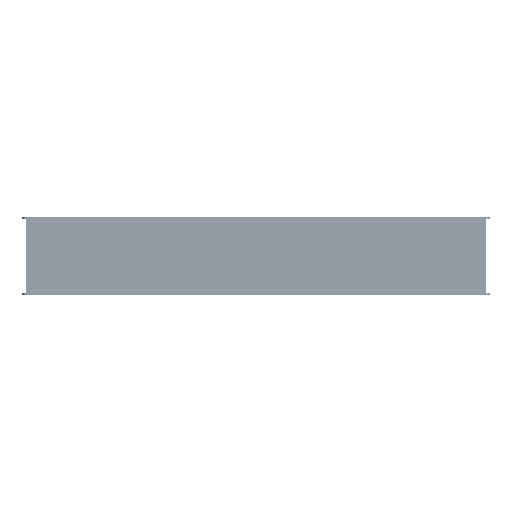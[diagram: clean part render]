
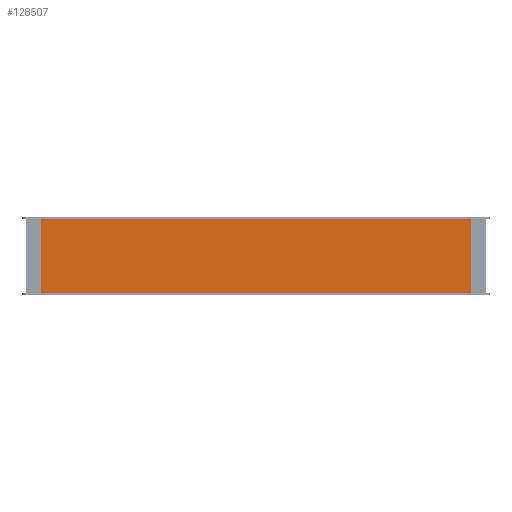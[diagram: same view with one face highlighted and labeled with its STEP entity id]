
A CAD part, left-side view. The second image highlights one B-rep face of the part: STEP entity #128507.
In plain terms, the highlighted planar face has unit normal (-1, 0, 0).
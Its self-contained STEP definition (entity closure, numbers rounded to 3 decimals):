
#9418 = EDGE_CURVE ( 'NONE', #22914, #112736, #130732, .T. ) ;
#9823 = FACE_OUTER_BOUND ( 'NONE', #162837, .T. ) ;
#12000 = LINE ( 'NONE', #168705, #74268 ) ;
#22914 = VERTEX_POINT ( 'NONE', #89473 ) ;
#29915 = AXIS2_PLACEMENT_3D ( 'NONE', #151122, #107981, #94220 ) ;
#30597 = EDGE_CURVE ( 'NONE', #112736, #92819, #97369, .T. ) ;
#40020 = PLANE ( 'NONE',  #29915 ) ;
#48010 = CARTESIAN_POINT ( 'NONE',  ( -734.868, 609.517, 2.5 ) ) ;
#64116 = EDGE_CURVE ( 'NONE', #77904, #22914, #12000, .T. ) ;
#64939 = ORIENTED_EDGE ( 'NONE', *, *, #30597, .F. ) ;
#70921 = VECTOR ( 'NONE', #129836, 1000. ) ;
#72945 = ORIENTED_EDGE ( 'NONE', *, *, #64116, .F. ) ;
#74268 = VECTOR ( 'NONE', #85167, 1000. ) ;
#75163 = CARTESIAN_POINT ( 'NONE',  ( -734.868, 609.517, 192.5 ) ) ;
#77904 = VERTEX_POINT ( 'NONE', #146924 ) ;
#85167 = DIRECTION ( 'NONE',  ( 0., 0., -1. ) ) ;
#87223 = CARTESIAN_POINT ( 'NONE',  ( -734.868, 609.517, 192.5 ) ) ;
#89473 = CARTESIAN_POINT ( 'NONE',  ( -734.868, -556.483, 2.5 ) ) ;
#90754 = LINE ( 'NONE', #75163, #175612 ) ;
#92819 = VERTEX_POINT ( 'NONE', #172199 ) ;
#94220 = DIRECTION ( 'NONE',  ( 0., 1., 0. ) ) ;
#97369 = LINE ( 'NONE', #87223, #112534 ) ;
#107981 = DIRECTION ( 'NONE',  ( -1., 0., 0. ) ) ;
#112534 = VECTOR ( 'NONE', #113860, 1000. ) ;
#112736 = VERTEX_POINT ( 'NONE', #48010 ) ;
#113860 = DIRECTION ( 'NONE',  ( 0., 0., 1. ) ) ;
#123276 = ORIENTED_EDGE ( 'NONE', *, *, #9418, .F. ) ;
#128507 = ADVANCED_FACE ( 'NONE', ( #9823 ), #40020, .T. ) ;
#129836 = DIRECTION ( 'NONE',  ( 0., 1., 0. ) ) ;
#130732 = LINE ( 'NONE', #146297, #70921 ) ;
#146297 = CARTESIAN_POINT ( 'NONE',  ( -734.868, 609.517, 2.5 ) ) ;
#146924 = CARTESIAN_POINT ( 'NONE',  ( -734.868, -556.483, 192.5 ) ) ;
#151122 = CARTESIAN_POINT ( 'NONE',  ( -734.868, 26.517, 97.5 ) ) ;
#156638 = EDGE_CURVE ( 'NONE', #92819, #77904, #90754, .T. ) ;
#160531 = DIRECTION ( 'NONE',  ( 0., -1., 0. ) ) ;
#161207 = ORIENTED_EDGE ( 'NONE', *, *, #156638, .F. ) ;
#162837 = EDGE_LOOP ( 'NONE', ( #72945, #161207, #64939, #123276 ) ) ;
#168705 = CARTESIAN_POINT ( 'NONE',  ( -734.868, -556.483, 192.5 ) ) ;
#172199 = CARTESIAN_POINT ( 'NONE',  ( -734.868, 609.517, 192.5 ) ) ;
#175612 = VECTOR ( 'NONE', #160531, 1000. ) ;
